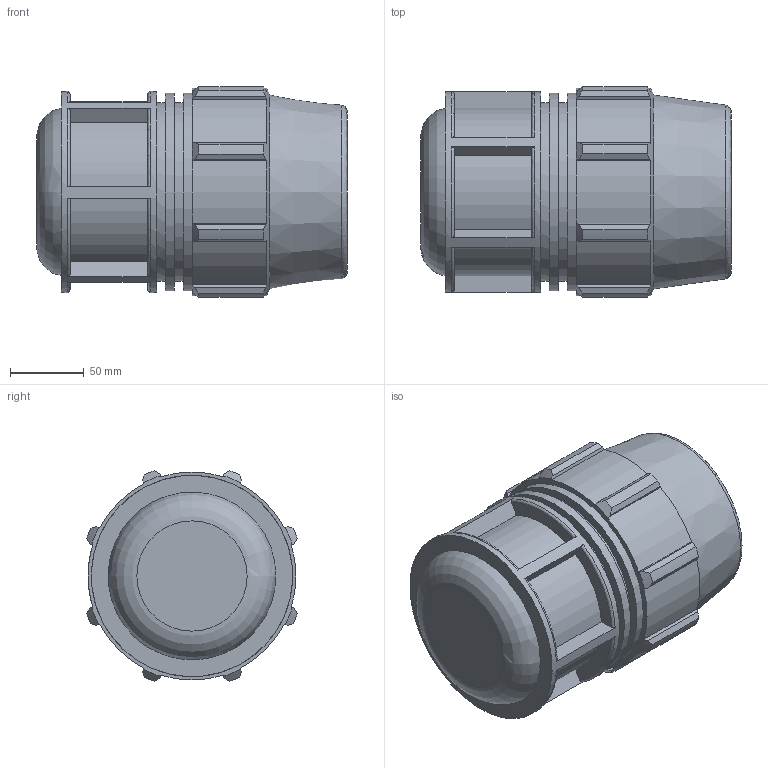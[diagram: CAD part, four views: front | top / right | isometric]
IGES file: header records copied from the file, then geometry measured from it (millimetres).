
Global section: file name: 871200090_181200090.ipt; native system: Autodesk Inventor 2015; preprocessor: unknown; author: Кирилл,,11,0; organization: 20170224.180708; date: 20170608.042534; units: millimetre
Bounding box: 211 x 143.02 x 143.02 mm (x, y, z)
Volume: 1598846.3 mm3; surface area: 185057.7 mm2
Topology: 1 solids, 1 shells, 121 faces, 322 edges, 216 vertices
Faces by surface type: plane 66, cylinder 27, revolution 18, cone 10
Full cylindrical faces by diameter (mm): 121.6 x2, 134.064 x2, 136.8 x1
